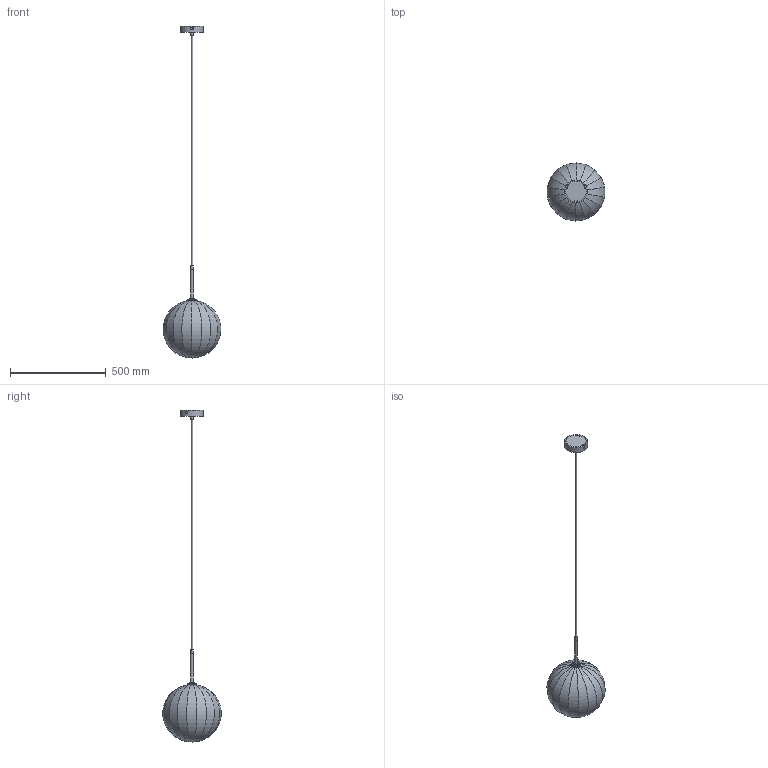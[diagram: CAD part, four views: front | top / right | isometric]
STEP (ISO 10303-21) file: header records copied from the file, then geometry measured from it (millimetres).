
FILE_DESCRIPTION(/* description */ (''),/* implementation_level */ '2;1');
FILE_NAME(/* name */ 'T:\B090 Dries Pendant 300\Pliki bryłowe handlowe\B090 Dries 300 3D files_na stronę\B090 Dries 300.stp',/* time_stamp */ '2022-02-02T13:08:28+01:00',/* author */ ('Mariusz Awariusz'),/* organization */ (''),/* preprocessor_version */ 'ST-DEVELOPER v18.1',/* originating_system */ 'Autodesk Inventor 2022',/* authorisation */ '');
FILE_SCHEMA (('AUTOMOTIVE_DESIGN { 1 0 10303 214 3 1 1 }'));
Length unit declared in the file: millimetre
Products named in the file (1): B090 Dries Pendant 300 CE_na potrzeby plików 3D_2_jako część_
korpusy bryłowe
Bounding box: 299.58 x 303.89 x 1729.2 mm (x, y, z)
Volume: 14749750.9 mm3; surface area: 387552.8 mm2
Topology: 18 solids, 18 shells, 190 faces, 405 edges, 251 vertices
Faces by surface type: plane 91, cylinder 70, cone 27, torus 1, sphere 1
Full cylindrical faces by diameter (mm): 2.693 x3, 3 x3, 3.4 x3, 5.5 x3, 6 x5, 7 x1, 11.6 x1, 13 x4, 20 x1, 22 x2, 25 x1, 40 x1, 43 x1, 45 x1, 120 x1
Entity records: 5284 total; most frequent: CARTESIAN_POINT 1098, DIRECTION 916, ORIENTED_EDGE 810, EDGE_CURVE 405, AXIS2_PLACEMENT_3D 369, VERTEX_POINT 251, EDGE_LOOP 198, FACE_OUTER_BOUND 190
